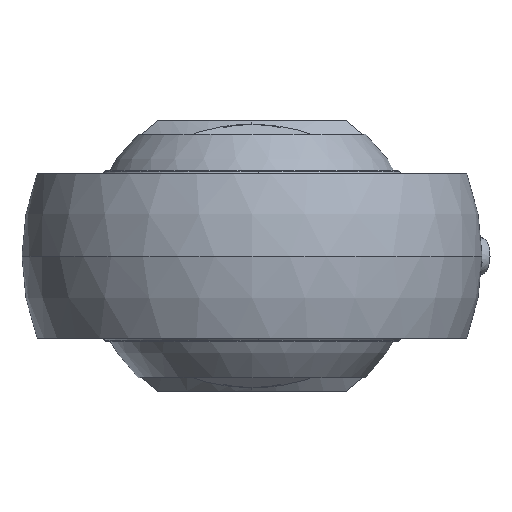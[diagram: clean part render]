
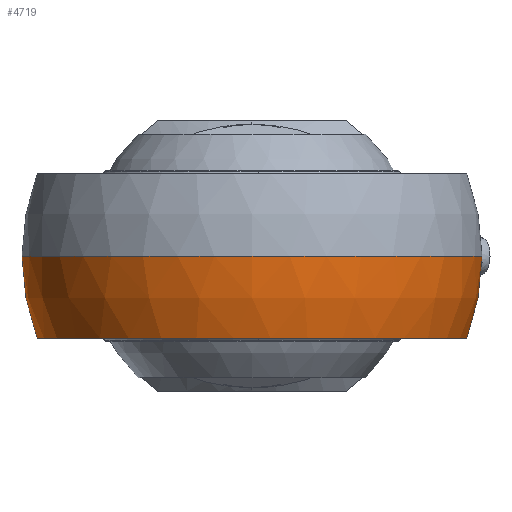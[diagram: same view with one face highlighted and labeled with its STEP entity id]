
A CAD part, left-side view. The second image highlights one B-rep face of the part: STEP entity #4719.
In plain terms, the highlighted spherical face has radius 35 mm.
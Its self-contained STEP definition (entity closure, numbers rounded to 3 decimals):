
#1146 = DIRECTION ( 'NONE',  ( 0., 1., 0. ) ) ;
#1147 = DIRECTION ( 'NONE',  ( 0., 0., -1. ) ) ;
#1148 = CARTESIAN_POINT ( 'NONE',  ( 0., 0., 0. ) ) ;
#1149 = AXIS2_PLACEMENT_3D ( 'NONE', #1148, #1147, #1146 ) ;
#1150 = CIRCLE ( 'NONE', #1149, 35. ) ;
#1151 = CARTESIAN_POINT ( 'NONE',  ( 13.659, -29.702, -12.5 ) ) ;
#1152 = CARTESIAN_POINT ( 'NONE',  ( 13.659, -32.225, 0. ) ) ;
#1153 = DIRECTION ( 'NONE',  ( 0., 0., 1. ) ) ;
#1154 = DIRECTION ( 'NONE',  ( -1., 0., 0. ) ) ;
#1155 = CARTESIAN_POINT ( 'NONE',  ( 13.659, 0., 0. ) ) ;
#1156 = AXIS2_PLACEMENT_3D ( 'NONE', #1155, #1154, #1153 ) ;
#1157 = CIRCLE ( 'NONE', #1156, 32.225 ) ;
#1158 = DIRECTION ( 'NONE',  ( 1., 0., 0. ) ) ;
#1159 = DIRECTION ( 'NONE',  ( 0., 0., 1. ) ) ;
#1160 = CARTESIAN_POINT ( 'NONE',  ( 0., 0., 0. ) ) ;
#1161 = AXIS2_PLACEMENT_3D ( 'NONE', #1160, #1159, #1158 ) ;
#1162 = CIRCLE ( 'NONE', #1161, 35. ) ;
#1169 = CARTESIAN_POINT ( 'NONE',  ( -35., 0., 0. ) ) ;
#2541 = AXIS2_PLACEMENT_3D ( 'NONE', #2544, #2543, #2612 ) ;
#2543 = DIRECTION ( 'NONE',  ( 0., 0., -1. ) ) ;
#2544 = CARTESIAN_POINT ( 'NONE',  ( 0., 0., 0. ) ) ;
#2578 = SPHERICAL_SURFACE ( 'NONE', #2541, 35. ) ;
#2579 = FACE_OUTER_BOUND ( 'NONE', #3899, .T. ) ;
#2612 = DIRECTION ( 'NONE',  ( 0., 1., 0. ) ) ;
#2622 = CARTESIAN_POINT ( 'NONE',  ( 13.659, 32.225, 0. ) ) ;
#2624 = CARTESIAN_POINT ( 'NONE',  ( 13.659, 29.702, -12.5 ) ) ;
#2625 = DIRECTION ( 'NONE',  ( 1., 0., 0. ) ) ;
#2626 = DIRECTION ( 'NONE',  ( 0., 0., 1. ) ) ;
#2627 = CARTESIAN_POINT ( 'NONE',  ( 0., 0., -12.5 ) ) ;
#2628 = AXIS2_PLACEMENT_3D ( 'NONE', #2627, #2626, #2625 ) ;
#2629 = CIRCLE ( 'NONE', #2628, 32.692 ) ;
#2630 = DIRECTION ( 'NONE',  ( 0., 0., 1. ) ) ;
#2631 = DIRECTION ( 'NONE',  ( -1., 0., 0. ) ) ;
#2632 = CARTESIAN_POINT ( 'NONE',  ( 13.659, 0., 0. ) ) ;
#2633 = AXIS2_PLACEMENT_3D ( 'NONE', #2632, #2631, #2630 ) ;
#2634 = CIRCLE ( 'NONE', #2633, 32.225 ) ;
#3893 = VERTEX_POINT ( 'NONE', #1169 ) ;
#3894 = ORIENTED_EDGE ( 'NONE', *, *, #3903, .T. ) ;
#3896 = EDGE_CURVE ( 'NONE', #4732, #3893, #1162, .T. ) ;
#3897 = ORIENTED_EDGE ( 'NONE', *, *, #3898, .T. ) ;
#3898 = EDGE_CURVE ( 'NONE', #3902, #3900, #1157, .T. ) ;
#3899 = EDGE_LOOP ( 'NONE', ( #3897, #3894, #3901, #4725, #4730 ) ) ;
#3900 = VERTEX_POINT ( 'NONE', #1152 ) ;
#3901 = ORIENTED_EDGE ( 'NONE', *, *, #3896, .F. ) ;
#3902 = VERTEX_POINT ( 'NONE', #1151 ) ;
#3903 = EDGE_CURVE ( 'NONE', #3900, #3893, #1150, .T. ) ;
#4719 = ADVANCED_FACE ( 'NONE', ( #2579 ), #2578, .T. ) ;
#4725 = ORIENTED_EDGE ( 'NONE', *, *, #4726, .T. ) ;
#4726 = EDGE_CURVE ( 'NONE', #4732, #4728, #2634, .T. ) ;
#4727 = EDGE_CURVE ( 'NONE', #4728, #3902, #2629, .T. ) ;
#4728 = VERTEX_POINT ( 'NONE', #2624 ) ;
#4730 = ORIENTED_EDGE ( 'NONE', *, *, #4727, .T. ) ;
#4732 = VERTEX_POINT ( 'NONE', #2622 ) ;
